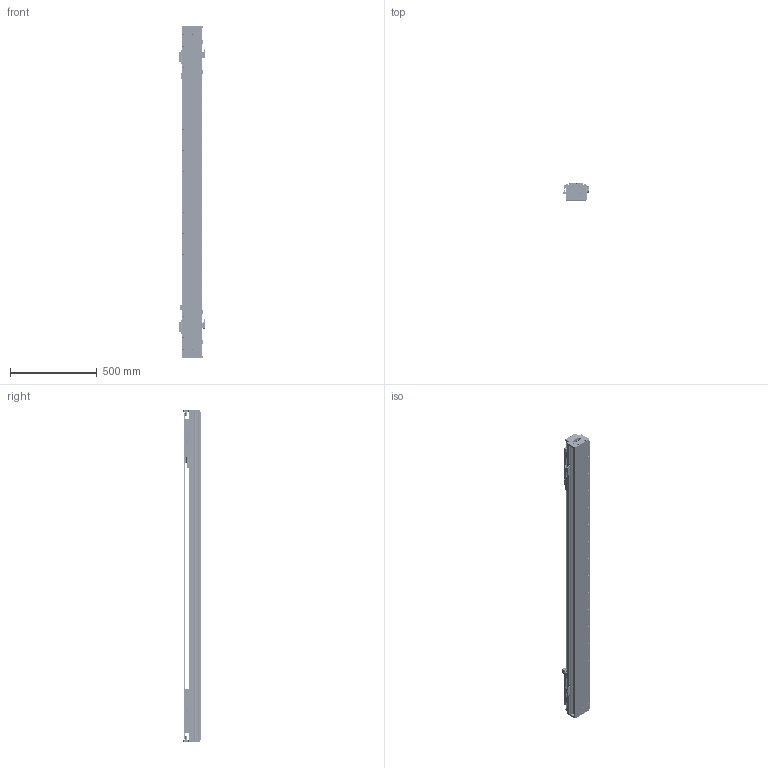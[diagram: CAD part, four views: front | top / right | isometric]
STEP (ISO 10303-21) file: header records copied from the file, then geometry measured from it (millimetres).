
FILE_DESCRIPTION (( 'STEP AP203' ), '1' );
FILE_NAME ('DKW119-2×C3-W060(T1280-L005-0.2).STEP', '2021-09-17T09:06:52', ( '微软用户' ), ( '微软中国' ), 'SwSTEP 2.0', 'SolidWorks 2018', '' );
FILE_SCHEMA (( 'CONFIG_CONTROL_DESIGN' ));
Length unit declared in the file: millimetre
Products named in the file (26): 06652-0001-004-00 DKW120嶺輸菜輸; EE_SX674A; 嫖萇羲壽蚾饜极; 嫖萇羲壽蚾饜极A; 12018-0001-002-00 詩湍; 12018-0001-001-00 菁釱; DKW119-2×C3-W060(T1280-L005-0.2); DKW-SG-GYP-H-00 嫖萇覜茼え; 砎蝶猾沭; MSB15-DG-U; RUS嫖掑喜; 12160-0000-003-00 DKW120詩湍嶺輸; DKW119-RU-DTJ-00 RU2黍杅芛盓殤; Ru2; 12160-0000-004-00  DKW120詩湍揤輸; 电机出线 ^DKW119-2×C3-W060(T1280-L005-0.2); CKM03-W060_00; DKW119 单轴模组-拉钢带组件; CKMA01-W060-TRLxxx; DKW-DG-XJ-Z-00 笢潔滅袉砎蝶; pm-y65; DKW-HXJ-JY-00 遣喳砎蝶; DKW-GYP-ZJ-00 笢潔嫖萇覜茼え; 10980-0001-003-00 嫖萇羲壽嘐隅釱; 11062-0001-004-00 DKW119傷啣; DKW-KGZ-ZJ-00 中间光电开关支架
Assembly tree (45 placements, depth 3):
  DKW119-2×C3-W060(T1280-L005-0.2)
    12018-0001-001-00 菁釱
    MSB15-DG-U  x2
    DKW119-RU-DTJ-00 RU2黍杅芛盓殤  x2
    电机出线 ^DKW119-2×C3-W060(T1280-L005-0.2)  x2
    CKMA01-W060-TRLxxx
    DKW119 单轴模组-拉钢带组件
      DKW-HXJ-JY-00 遣喳砎蝶  x4
      11062-0001-004-00 DKW119傷啣  x2
      06652-0001-004-00 DKW120嶺輸菜輸  x4
      12018-0001-002-00 詩湍
      砎蝶猾沭  x2
      12160-0000-003-00 DKW120詩湍嶺輸  x2
      12160-0000-004-00  DKW120詩湍揤輸  x2
    嫖萇羲壽蚾饜极
      pm-y65  x2
      10980-0001-003-00 嫖萇羲壽嘐隅釱
    嫖萇羲壽蚾饜极A
      pm-y65  x2
      10980-0001-003-00 嫖萇羲壽嘐隅釱
    DKW-SG-GYP-H-00 嫖萇覜茼え  x2
    RUS嫖掑喜
    Ru2  x2
    CKM03-W060_00  x2
    DKW-DG-XJ-Z-00 笢潔滅袉砎蝶
    DKW-GYP-ZJ-00 笢潔嫖萇覜茼え
    DKW-KGZ-ZJ-00 中间光电开关支架
    EE_SX674A
Bounding box: 154.3 x 99 x 1916 mm (x, y, z)
Volume: 9552575.2 mm3; surface area: 2954384.6 mm2
Topology: 62 solids, 160 shells, 6561 faces, 17414 edges, 11146 vertices
Faces by surface type: plane 3500, cylinder 2017, cone 550, bspline 494
Entity records: 134696 total; most frequent: CARTESIAN_POINT 44243, ORIENTED_EDGE 18123, DIRECTION 17512, EDGE_CURVE 9102, VERTEX_POINT 5966, AXIS2_PLACEMENT_3D 5920, LINE 5672, VECTOR 5672
